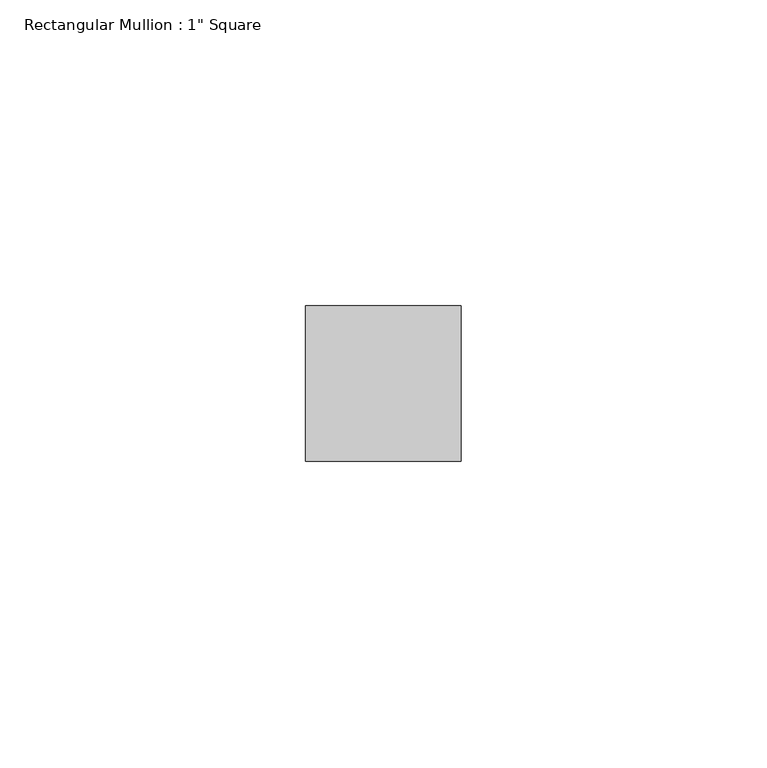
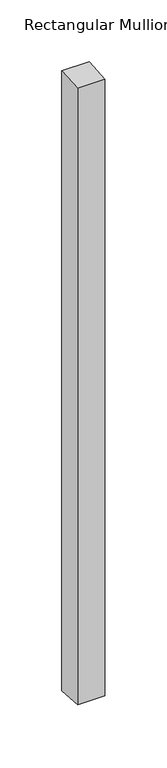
"""IFC4 building model written with IfcOpenShell, lengths in millimetres: member geometry."""

from ifc_helpers import new_model, si_unit, origin, place, context, project, spatial, faceted_brep, source, transform, mapped, element, save


def member_58e85060(model_context):
    return source(origin(), model_context, "Body", "Brep", [
        faceted_brep([(-25.4, 12.7, 0.7766391), (0.0, 12.7, 0.7586881), (0.0, 12.7, -610.3586881), (-25.4, 12.7, -610.3766391), (-25.4, -12.7, -0.740737), (-25.4, -12.7, -608.859263), (0.0, -12.7, -0.7586881), (0.0, -12.7, -608.8413119)], [[[0, 1, 2, 3]], [[4, 0, 3, 5]], [[6, 4, 5, 7]], [[1, 6, 7, 2]], [[1, 0, 4, 6]], [[2, 7, 5, 3]]]),
    ])


if __name__ == "__main__":
    model = new_model("IFC4")
    model_context = context("Model", 3, world=origin())
    ifc_project = project(units=[si_unit("LENGTHUNIT", "METRE", prefix="MILLI")], contexts=[model_context])
    site = spatial("IfcSite", under=ifc_project)
    building = spatial("IfcBuilding", under=site)
    placement = place(None, origin())
    member_shape = member_58e85060(model_context)
    element("IfcMember", 1, ObjectType="Rectangular Mullion : 1\" Square", at=placement, inside=building, context=model_context, shape_type="MappedRepresentation", body=[
        mapped(member_shape, transform((0.0, 0.0, 0.0), x_axis=(1.0, 0.0, 0.0), y_axis=(0.0, 1.0, 0.0), z_axis=(0.0, 0.0, 1.0))),
    ])
    save(model, "model.ifc")
